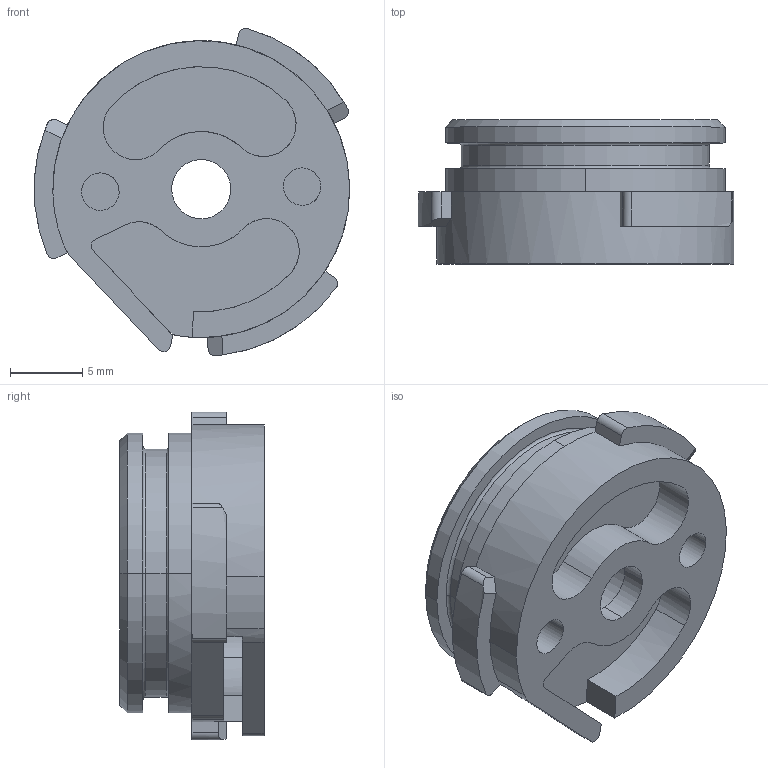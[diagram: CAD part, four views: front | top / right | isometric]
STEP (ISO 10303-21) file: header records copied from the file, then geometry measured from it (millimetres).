
FILE_DESCRIPTION(('CATIA V5 STEP Exchange'),'2;1');
FILE_NAME('C:\Users\Administrator\Desktop\BPC0010140(A)-气缸端盖（A）.stp','2021-05-10T03:35:24+00:00',('none'),('none'),'CATIA Version 5 Release 20 GA (IN-10)','CATIA V5 STEP AP214','none');
FILE_SCHEMA(('AUTOMOTIVE_DESIGN { 1 0 10303 214 1 1 1 1 }'));
Length unit declared in the file: millimetre
Products named in the file (1): BPC0010140
Bounding box: 21.88 x 10 x 22.72 mm (x, y, z)
Volume: 2245 mm3; surface area: 1943.6 mm2
Topology: 1 solids, 1 shells, 89 faces, 230 edges, 151 vertices
Faces by surface type: cylinder 48, plane 33, cone 4, torus 4
Entity records: 2940 total; most frequent: CARTESIAN_POINT 855, ORIENTED_EDGE 460, DIRECTION 349, EDGE_CURVE 230, AXIS2_PLACEMENT_3D 166, VERTEX_POINT 151, VECTOR 105, LINE 105
